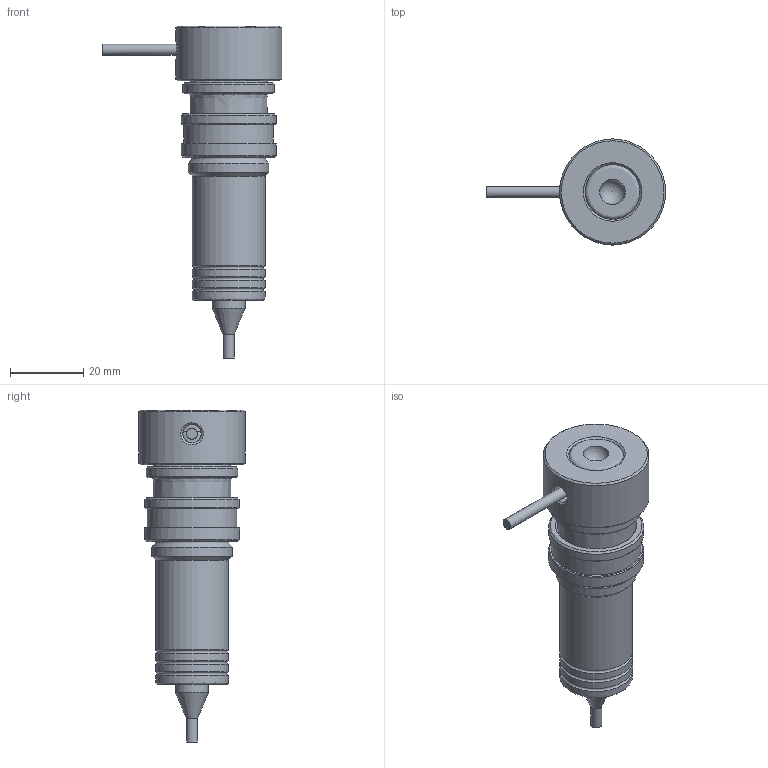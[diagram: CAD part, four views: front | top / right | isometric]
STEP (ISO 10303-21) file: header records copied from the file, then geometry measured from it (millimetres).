
FILE_DESCRIPTION(('STEP AP214'),'1');
FILE_NAME('IPM150-A.stp','2018-06-12T12:15:59',(' '),(' '),'Spatial InterOp 3D',' ',' ');
FILE_SCHEMA(('AUTOMOTIVE_DESIGN { 1 0 10303 214 1 1 1 1 }'));
Length unit declared in the file: millimetre
Products named in the file (1): 1
Bounding box: 49 x 29 x 90.75 mm (x, y, z)
Volume: 25850.7 mm3; surface area: 16252.5 mm2
Topology: 4 solids, 4 shells, 82 faces, 157 edges, 92 vertices
Faces by surface type: cylinder 24, cone 22, plane 19, revolution 10, torus 5, bspline 1, sphere 1
Full cylindrical faces by diameter (mm): 3 x2, 4.55 x1, 5 x1, 6.35 x1, 6.75 x1, 6.76 x1, 9 x1, 15 x1, 17.2 x2, 19.958 x3, 20.9 x1, 21 x1, 21.2 x2, 22 x1, 24.5 x1, 25 x1, 26 x2, 29 x1
Entity records: 2801 total; most frequent: CARTESIAN_POINT 713, DIRECTION 316, ORIENTED_EDGE 176, EDGE_LOOP 158, AXIS2_PLACEMENT_3D 152, FACE_OUTER_BOUND 120, EDGE_CURVE 88, VERTEX_POINT 85
